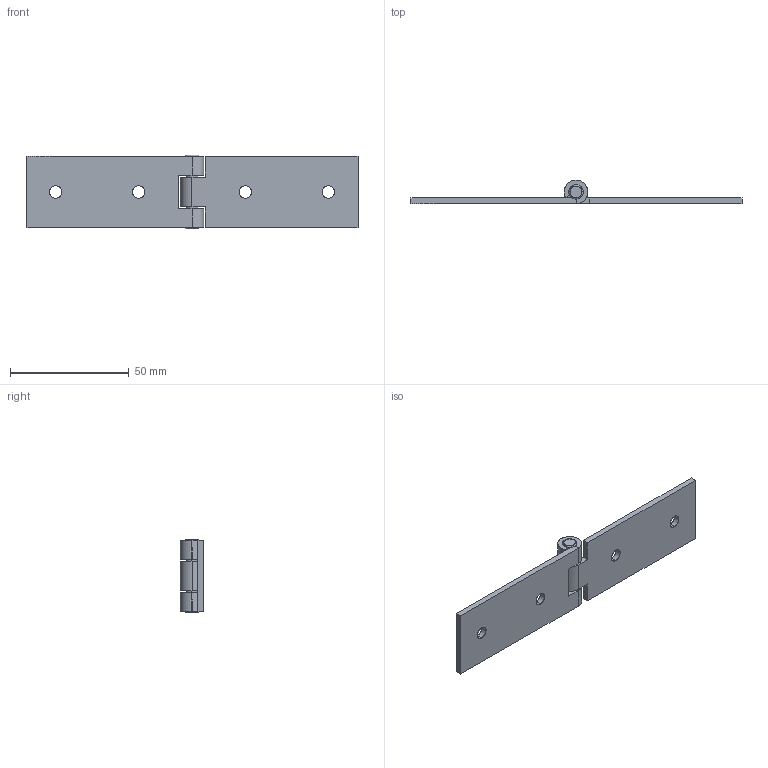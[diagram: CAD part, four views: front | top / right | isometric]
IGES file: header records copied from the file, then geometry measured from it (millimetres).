
Start section: SolidWorks IGES file using analytic representation for surfaces
Global section: file name: C:\Users\cbrechard\Desktop\32166 .IGS; native system: SolidWorks 2017; preprocessor: SolidWorks 2017; author: cbrechard; date: 251010.101511; units: millimetre
Bounding box: 140 x 10 x 31 mm (x, y, z)
Surface area: 11031.8 mm2 (no closed solid volume)
Topology: 0 solids, 0 shells, 62 faces, 996 edges, 996 vertices
Faces by surface type: bspline 34, revolution 28
